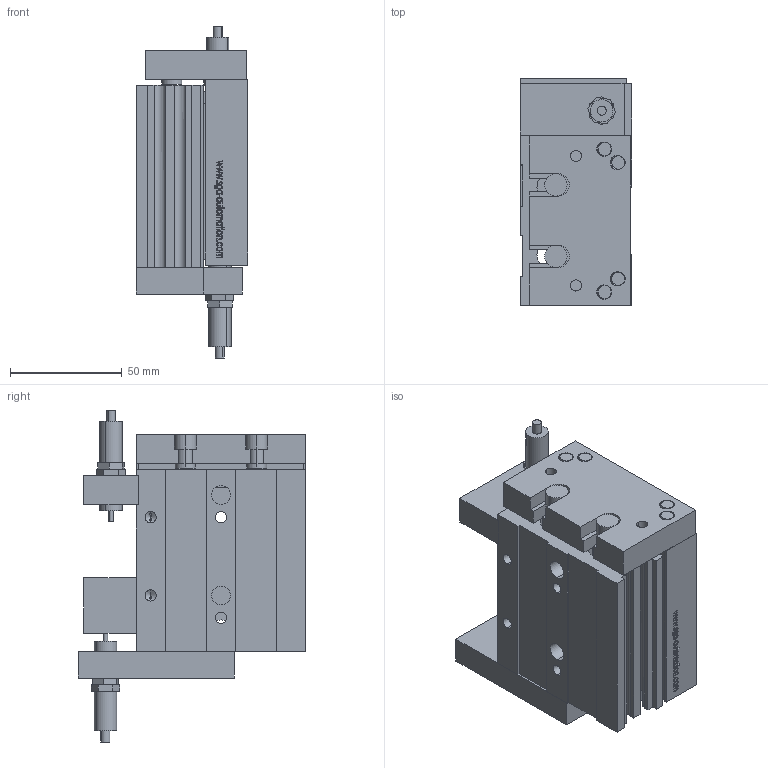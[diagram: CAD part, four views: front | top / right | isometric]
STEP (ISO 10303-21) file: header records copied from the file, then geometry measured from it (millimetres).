
FILE_DESCRIPTION (( 'STEP AP203' ), '1' );
FILE_NAME ('GDX 20-30.STEP', '2013-02-27T10:24:25', ( 'Conseil Régional Haute-Normandie' ), ( 'Conseil Régional Haute-Normandie' ), 'SwSTEP 2.0', 'SolidWorks 2010', '' );
FILE_SCHEMA (( 'CONFIG_CONTROL_DESIGN' ));
Length unit declared in the file: millimetre
Products named in the file (14): Pièce15 GDX 20-10_Default; Pièce14 GDX 20-10_Default; Pièce4 GDX 20-10_Default; Pièce3 GDX 20-10_Default; GDX 20-30; Pièce 12 GDX 20-30_Default; Pièce 10 GDX 20-10_Default; Pièce16 GDX 20-10_Default; Pièce13 GDX 20-10_Default; Pièce11 GDX 20-10_Default; Pièce9 GDX 20-10_Default; Pièce7 GDX 20-10_Default; Pièce2 GDX 20-10_Default; Pièce1 GDX 20-10_Default
Assembly tree (29 placements, depth 2):
  GDX 20-30
    Pièce16 GDX 20-10_Default  x4
    Pièce15 GDX 20-10_Default  x8
    Pièce14 GDX 20-10_Default  x4
    Pièce7 GDX 20-10_Default
    Pièce4 GDX 20-10_Default  x2
    Pièce3 GDX 20-10_Default
    Pièce 10 GDX 20-10_Default
    Pièce9 GDX 20-10_Default  x2
    Pièce13 GDX 20-10_Default  x2
    Pièce11 GDX 20-10_Default
    Pièce2 GDX 20-10_Default
    Pièce 12 GDX 20-30_Default
    Pièce1 GDX 20-10_Default
Bounding box: 50 x 102 x 148.63 mm (x, y, z)
Volume: 330111.7 mm3; surface area: 107711 mm2
Topology: 29 solids, 29 shells, 764 faces, 1932 edges, 1254 vertices
Faces by surface type: plane 389, cylinder 202, bspline 133, cone 40
Entity records: 31074 total; most frequent: CARTESIAN_POINT 14266, ORIENTED_EDGE 3240, DIRECTION 2684, EDGE_CURVE 1620, VERTEX_POINT 1073, VECTOR 1070, LINE 1070, AXIS2_PLACEMENT_3D 807
